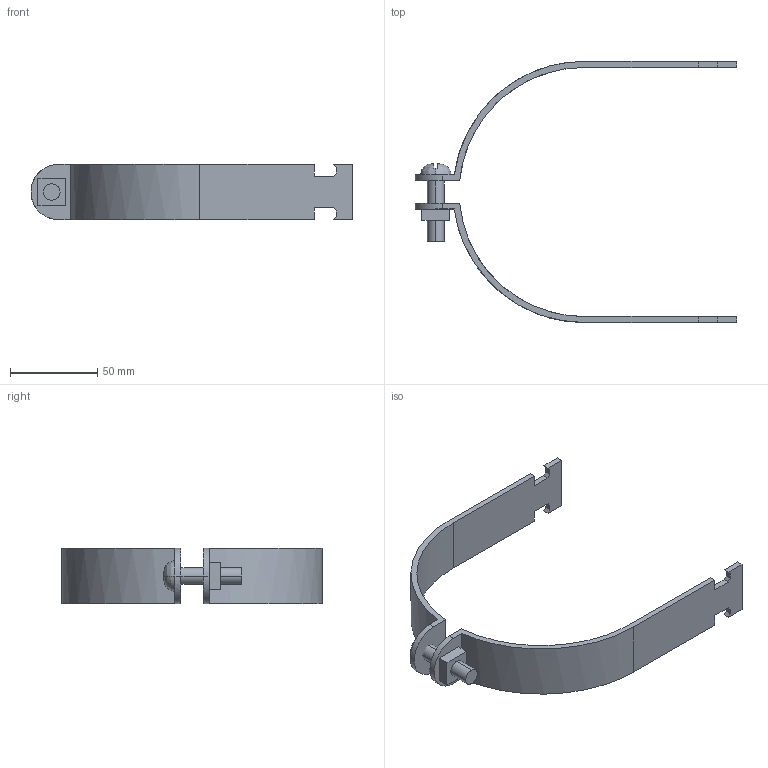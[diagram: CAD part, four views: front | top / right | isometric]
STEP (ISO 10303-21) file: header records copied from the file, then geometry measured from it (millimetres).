
FILE_DESCRIPTION(('TurboCAD Mac Pro'),'Build 980');
FILE_NAME('P2067.stp',' ',(''),(''),'ACIS Interop','IMSI','TurboCAD Mac Pro BY IMSI, INCORPORATED');
FILE_SCHEMA(('automotive_design'));
Length unit declared in the file: inch
Products named in the file (5): 1; 2; 3; 4; 5
Bounding box: 184.9 x 149.89 x 31.75 mm (x, y, z)
Volume: 50770.7 mm3; surface area: 33083.7 mm2
Topology: 4 solids, 4 shells, 71 faces, 186 edges, 124 vertices
Faces by surface type: plane 51, bspline 20
Entity records: 4237 total; most frequent: CARTESIAN_POINT 1050, ORIENTED_EDGE 372, DIRECTION 258, STYLED_ITEM 241, PRESENTATION_STYLE_ASSIGNMENT 241, COLOUR_RGB 241, EDGE_CURVE 186, CURVE_STYLE 166
